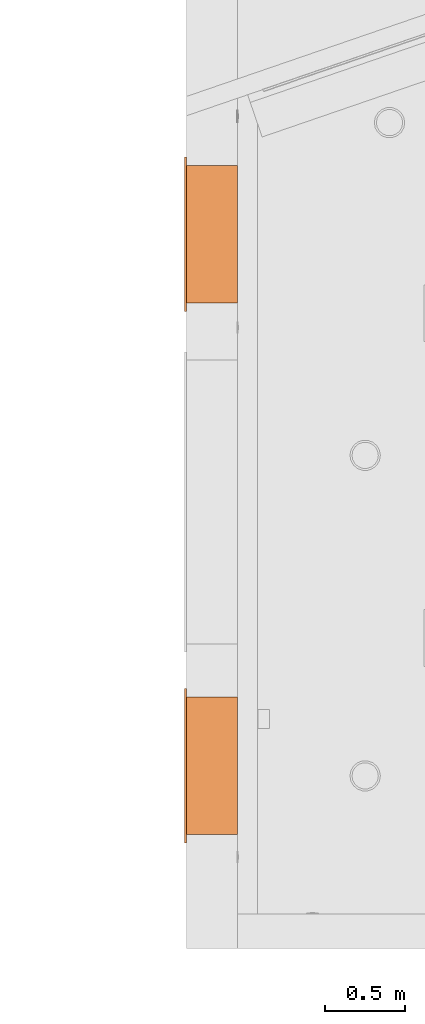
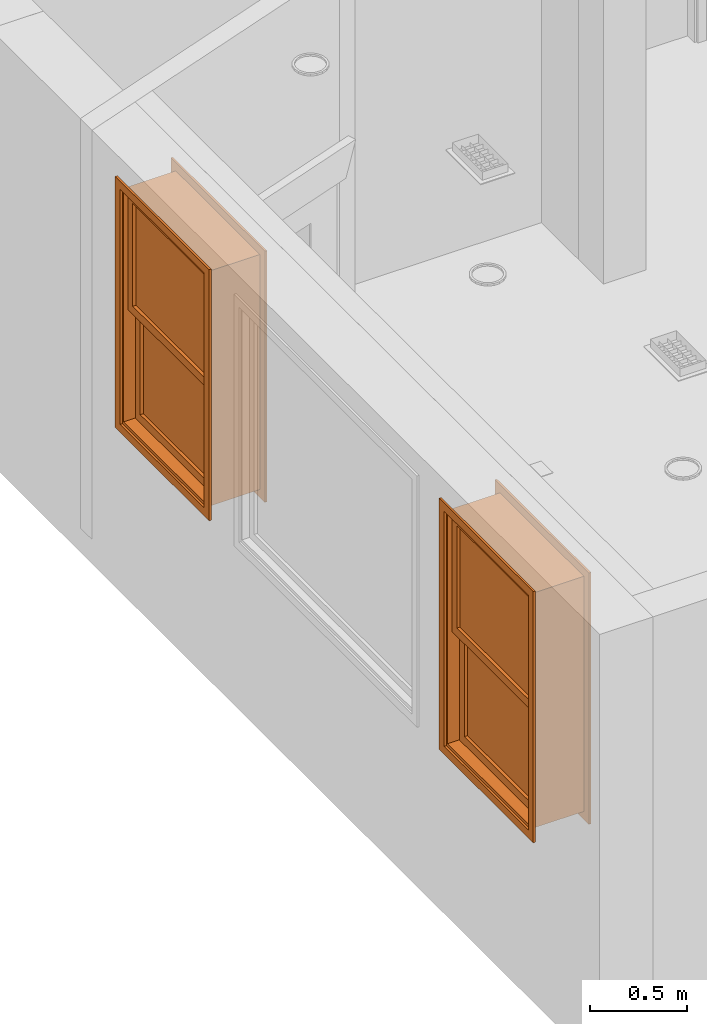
# One storey, part 20 of 48: 2 proxies.
"""IFC2X3 building model written with IfcOpenShell, lengths in inches."""

from ifc_helpers import new_model, entity, si_unit, converted_unit, derived_unit, money_unit, direction, frame, origin_with_axes, place, context, subcontext, project, spatial, faceted_brep, source, transform, mapped, type_object, element, save


model = new_model("IFC2X3")

# Units and contexts
model_context = context("Model", 3, precision=0.00039370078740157, world=origin_with_axes(), true_north=direction((0.0, 1.0)))
plan_context = context("Plan", 3, precision=0.00039370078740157, world=origin_with_axes(), true_north=direction((0.0, 1.0)))
body_context = subcontext(model_context, "Body", "Model", "MODEL_VIEW")
ifc_project = project(units=[converted_unit("LENGTHUNIT", "INCH", entity("IfcPositiveLengthMeasure", 0.0254), si_unit("LENGTHUNIT", "METRE"), dimensions=[1, 0, 0, 0, 0, 0, 0]), converted_unit("AREAUNIT", "SQUARE_FOOT", entity("IfcPositiveLengthMeasure", 0.09290304), si_unit("AREAUNIT", "SQUARE_METRE"), dimensions=[2, 0, 0, 0, 0, 0, 0]), si_unit("PLANEANGLEUNIT", "RADIAN"), si_unit("SOLIDANGLEUNIT", "STERADIAN"), money_unit("USD"), converted_unit("TIMEUNIT", "Year", entity("IfcTimeMeasure", 31557600.0), si_unit("TIMEUNIT", "SECOND"), dimensions=[0, 0, 1, 0, 0, 0, 0]), si_unit("MASSUNIT", "GRAM", prefix="KILO"), si_unit("THERMODYNAMICTEMPERATUREUNIT", "DEGREE_CELSIUS"), si_unit("LUMINOUSINTENSITYUNIT", "LUMEN"), si_unit("ENERGYUNIT", "JOULE", prefix="MEGA"), derived_unit("SPECIFICHEATCAPACITYUNIT", [(si_unit("ENERGYUNIT", "JOULE"), 1), (si_unit("MASSUNIT", "GRAM", prefix="KILO"), -1), (si_unit("THERMODYNAMICTEMPERATUREUNIT", "KELVIN"), -1)])], contexts=[model_context, plan_context])

# Site, building, storey
site_placement = place(None, origin_with_axes())
site = spatial("IfcSite", under=ifc_project, at=site_placement, Name="Site", CompositionType="ELEMENT")
building_placement = place(site_placement, origin_with_axes())
building = spatial("IfcBuilding", under=site, at=building_placement, Name="Building", CompositionType="ELEMENT")
storey_placement = place(building_placement, origin_with_axes())
storey = spatial("IfcBuildingStorey", under=building, at=storey_placement, Name="First Floor", CompositionType="ELEMENT", Elevation=0.0)

# Proxies
building_element_proxy_type = type_object("IfcBuildingElementProxyType", Name="W Double Hung", PredefinedType="NOTDEFINED")
shared_shape = source(origin_with_axes(), body_context, "Body", "Brep", [
    faceted_brep([(16.99999999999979, 0.0, 0.0), (-16.99999999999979, 0.0, 0.0), (-16.99999999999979, 7.999999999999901, 0.0), (16.99999999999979, 7.999999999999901, 0.0), (16.99999999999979, 0.0, 57.99999999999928), (-16.99999999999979, 0.0, 57.99999999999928), (16.4999999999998, 0.0, 0.4999999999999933), (-16.4999999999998, 0.0, 0.4999999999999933), (-16.4999999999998, 0.0, 57.49999999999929), (16.4999999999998, 0.0, 57.49999999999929), (-16.99999999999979, 7.999999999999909, 57.99999999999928), (16.99999999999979, 7.999999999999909, 57.99999999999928), (16.4999999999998, 7.999999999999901, 0.4999999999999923), (16.4999999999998, 7.999999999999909, 57.49999999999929), (-16.4999999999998, 7.999999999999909, 57.49999999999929), (-16.4999999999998, 7.999999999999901, 0.4999999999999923)], [[[0, 1, 2, 3]], [[0, 4, 5, 1], [6, 7, 8, 9]], [[1, 5, 10, 2]], [[3, 2, 10, 11], [12, 13, 14, 15]], [[4, 0, 3, 11]], [[5, 4, 11, 10]], [[7, 6, 12, 15]], [[8, 7, 15, 14]], [[9, 8, 14, 13]], [[6, 9, 13, 12]]]),
    faceted_brep([(18.99999999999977, 8.499999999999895, -1.999999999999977), (18.99999999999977, 7.999999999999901, -1.999999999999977), (16.99999999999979, 7.999999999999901, 0.0), (16.99999999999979, 8.499999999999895, 0.0), (18.99999999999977, 8.499999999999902, 59.99999999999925), (18.99999999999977, 7.999999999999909, 59.99999999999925), (16.99999999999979, 7.999999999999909, 57.99999999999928), (16.99999999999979, 8.499999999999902, 57.99999999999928)], [[[0, 1, 2, 3]], [[4, 5, 1, 0]], [[1, 5, 6, 2]], [[3, 2, 6, 7]], [[0, 3, 7, 4]], [[7, 6, 5, 4]]]),
    faceted_brep([(-18.99999999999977, 8.499999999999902, 59.99999999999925), (-18.99999999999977, 7.999999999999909, 59.99999999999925), (-16.99999999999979, 7.999999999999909, 57.99999999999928), (-16.99999999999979, 8.499999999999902, 57.99999999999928), (-18.99999999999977, 8.499999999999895, -1.999999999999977), (-18.99999999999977, 7.999999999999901, -1.999999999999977), (-16.99999999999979, 7.999999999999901, 0.0), (-16.99999999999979, 8.499999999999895, 0.0)], [[[0, 1, 2, 3]], [[4, 5, 1, 0]], [[1, 5, 6, 2]], [[3, 2, 6, 7]], [[0, 3, 7, 4]], [[7, 6, 5, 4]]]),
    faceted_brep([(-18.99999999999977, 8.499999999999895, -1.999999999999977), (-18.99999999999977, 7.999999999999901, -1.999999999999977), (-16.99999999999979, 7.999999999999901, 0.0), (-16.99999999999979, 8.499999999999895, 0.0), (18.99999999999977, 8.499999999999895, -1.999999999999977), (18.99999999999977, 7.999999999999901, -1.999999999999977), (16.99999999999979, 7.999999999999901, 0.0), (16.99999999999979, 8.499999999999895, 0.0)], [[[0, 1, 2, 3]], [[4, 5, 1, 0]], [[1, 5, 6, 2]], [[3, 2, 6, 7]], [[0, 3, 7, 4]], [[7, 6, 5, 4]]]),
    faceted_brep([(18.99999999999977, 8.499999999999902, 59.99999999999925), (18.99999999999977, 7.999999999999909, 59.99999999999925), (16.99999999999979, 7.999999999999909, 57.99999999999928), (16.99999999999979, 8.499999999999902, 57.99999999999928), (-18.99999999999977, 8.499999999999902, 59.99999999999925), (-18.99999999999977, 7.999999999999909, 59.99999999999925), (-16.99999999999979, 7.999999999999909, 57.99999999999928), (-16.99999999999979, 8.499999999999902, 57.99999999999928)], [[[0, 1, 2, 3]], [[4, 5, 1, 0]], [[1, 5, 6, 2]], [[3, 2, 6, 7]], [[0, 3, 7, 4]], [[7, 6, 5, 4]]]),
    faceted_brep([(18.99999999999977, -4.999999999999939, -1.999999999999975), (16.99999999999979, -4.999999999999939, 0.0), (16.99999999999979, -4.499999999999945, 0.0), (18.99999999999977, -4.499999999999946, -1.999999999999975), (18.99999999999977, -4.999999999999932, 59.99999999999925), (16.99999999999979, -4.999999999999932, 57.99999999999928), (16.99999999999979, -4.499999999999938, 57.99999999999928), (18.99999999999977, -4.499999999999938, 59.99999999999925)], [[[0, 1, 2, 3]], [[0, 4, 5, 1]], [[1, 5, 6, 2]], [[3, 2, 6, 7]], [[4, 0, 3, 7]], [[5, 4, 7, 6]]]),
    faceted_brep([(-18.99999999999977, -4.999999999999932, 59.99999999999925), (-16.99999999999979, -4.999999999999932, 57.99999999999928), (-16.99999999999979, -4.499999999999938, 57.99999999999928), (-18.99999999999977, -4.499999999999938, 59.99999999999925), (-18.99999999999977, -4.999999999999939, -1.999999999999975), (-16.99999999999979, -4.999999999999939, 0.0), (-16.99999999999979, -4.499999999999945, 0.0), (-18.99999999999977, -4.499999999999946, -1.999999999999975)], [[[0, 1, 2, 3]], [[0, 4, 5, 1]], [[1, 5, 6, 2]], [[3, 2, 6, 7]], [[4, 0, 3, 7]], [[5, 4, 7, 6]]]),
    faceted_brep([(-18.99999999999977, -4.999999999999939, -1.999999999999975), (-16.99999999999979, -4.999999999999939, 0.0), (-16.99999999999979, -4.499999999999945, 0.0), (-18.99999999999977, -4.499999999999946, -1.999999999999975), (18.99999999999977, -4.999999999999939, -1.999999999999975), (16.99999999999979, -4.999999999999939, 0.0), (16.99999999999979, -4.499999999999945, 0.0), (18.99999999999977, -4.499999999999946, -1.999999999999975)], [[[0, 1, 2, 3]], [[0, 4, 5, 1]], [[1, 5, 6, 2]], [[3, 2, 6, 7]], [[4, 0, 3, 7]], [[5, 4, 7, 6]]]),
    faceted_brep([(18.99999999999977, -4.999999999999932, 59.99999999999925), (16.99999999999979, -4.999999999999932, 57.99999999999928), (16.99999999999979, -4.499999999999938, 57.99999999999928), (18.99999999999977, -4.499999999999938, 59.99999999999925), (-18.99999999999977, -4.999999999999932, 59.99999999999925), (-16.99999999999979, -4.999999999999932, 57.99999999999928), (-16.99999999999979, -4.499999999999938, 57.99999999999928), (-18.99999999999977, -4.499999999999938, 59.99999999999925)], [[[0, 1, 2, 3]], [[0, 4, 5, 1]], [[1, 5, 6, 2]], [[3, 2, 6, 7]], [[4, 0, 3, 7]], [[5, 4, 7, 6]]]),
    faceted_brep([(16.5003937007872, -4.499999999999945, 0.7539370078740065), (16.99999999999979, -4.499999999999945, 0.7539370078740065), (16.99999999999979, -4.499999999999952, 57.49606299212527), (16.5003937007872, -4.499999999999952, 57.49606299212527), (16.5003937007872, 0.0, 0.7539370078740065), (16.99999999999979, 0.0, 0.7539370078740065), (16.99999999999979, 0.0, 57.49606299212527), (16.5003937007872, 0.0, 57.49606299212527)], [[[0, 1, 2, 3]], [[4, 5, 1, 0]], [[6, 2, 1, 5]], [[3, 2, 6, 7]], [[7, 4, 0, 3]], [[7, 6, 5, 4]]]),
    faceted_brep([(-16.5003937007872, 0.0, 57.49606299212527), (-16.99999999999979, 0.0, 57.49606299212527), (-16.99999999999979, -4.499999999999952, 57.49606299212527), (-16.5003937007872, -4.499999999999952, 57.49606299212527), (-16.5003937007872, 0.0, 0.7539370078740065), (-16.99999999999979, 0.0, 0.7539370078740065), (-16.99999999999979, -4.499999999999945, 0.7539370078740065), (-16.5003937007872, -4.499999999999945, 0.7539370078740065)], [[[0, 1, 2, 3]], [[4, 5, 1, 0]], [[5, 6, 2, 1]], [[3, 2, 6, 7]], [[7, 4, 0, 3]], [[7, 6, 5, 4]]]),
    faceted_brep([(-16.5003937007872, 0.0, 0.7539370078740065), (-16.99999999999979, 0.0, 0.7539370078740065), (-16.99999999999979, -4.499999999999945, 0.7539370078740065), (-16.5003937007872, -4.499999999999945, 0.7539370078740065), (-16.5003937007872, 0.0, 0.7496062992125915), (16.5003937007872, 0.0, 0.7496062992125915), (16.5003937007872, 0.0, 0.7539370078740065), (16.99999999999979, 0.0, 0.7539370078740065), (16.99999999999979, 0.0, 0.0), (-16.99999999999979, 0.0, 0.0), (-16.99999999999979, -4.499999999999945, 0.0), (16.5003937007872, -4.499999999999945, 0.7496062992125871), (-16.5003937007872, -4.499999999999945, 0.7496062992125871), (16.99999999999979, -4.499999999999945, 0.0), (16.99999999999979, -4.499999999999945, 0.7539370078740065), (16.5003937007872, -4.499999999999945, 0.7539370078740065)], [[[0, 1, 2, 3]], [[4, 5, 6, 7, 8, 9, 1, 0]], [[9, 10, 2, 1]], [[11, 12, 3, 2, 10, 13, 14, 15]], [[12, 4, 0, 3]], [[11, 5, 4, 12]], [[6, 5, 11, 15]], [[15, 14, 7, 6]], [[7, 14, 13, 8]], [[8, 13, 10, 9]]]),
    faceted_brep([(16.5003937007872, -4.499999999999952, 57.49606299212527), (16.99999999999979, -4.499999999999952, 57.49606299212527), (16.99999999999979, -4.499999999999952, 57.99999999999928), (-16.99999999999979, -4.499999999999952, 57.99999999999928), (-16.99999999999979, -4.499999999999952, 57.49606299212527), (-16.5003937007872, -4.499999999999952, 57.49606299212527), (-16.5003937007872, -4.499999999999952, 57.5003937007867), (16.5003937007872, -4.499999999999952, 57.5003937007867), (16.5003937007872, 0.0, 57.49606299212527), (16.99999999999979, 0.0, 57.49606299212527), (16.99999999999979, 0.0, 57.99999999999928), (-16.99999999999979, 0.0, 57.99999999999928), (-16.99999999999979, 0.0, 57.49606299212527), (-16.5003937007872, 0.0, 57.49606299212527), (-16.5003937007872, 0.0, 57.5003937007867), (16.5003937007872, 0.0, 57.5003937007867)], [[[0, 1, 2, 3, 4, 5, 6, 7]], [[8, 9, 1, 0]], [[10, 2, 1, 9]], [[11, 3, 2, 10]], [[12, 4, 3, 11]], [[5, 4, 12, 13]], [[5, 13, 14, 6]], [[6, 14, 15, 7]], [[7, 15, 8, 0]], [[15, 14, 13, 12, 11, 10, 9, 8]]]),
    faceted_brep([(14.49999999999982, 0.0, 2.749999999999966), (14.49999999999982, -0.8749999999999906, 2.749999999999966), (14.49999999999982, -0.8749999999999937, 28.12499999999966), (14.49999999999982, 0.0, 28.12499999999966), (16.4999999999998, 0.0, 2.749999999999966), (16.4999999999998, -0.8749999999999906, 2.749999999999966), (16.4999999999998, -0.8749999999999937, 28.12499999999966), (16.4999999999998, 0.0, 28.12499999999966)], [[[0, 1, 2, 3]], [[4, 5, 1, 0]], [[1, 5, 6, 2]], [[3, 2, 6, 7]], [[0, 3, 7, 4]], [[7, 6, 5, 4]]]),
    faceted_brep([(-16.4999999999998, 0.0, 2.749999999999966), (-16.4999999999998, -0.8749999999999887, 2.749999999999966), (-16.4999999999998, -0.8749999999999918, 28.12499999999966), (-16.4999999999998, 0.0, 28.12499999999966), (-14.49999999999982, 0.0, 2.749999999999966), (-14.49999999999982, -0.8749999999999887, 2.749999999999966), (-14.49999999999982, -0.8749999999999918, 28.12499999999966), (-14.49999999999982, 0.0, 28.12499999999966)], [[[0, 1, 2, 3]], [[4, 5, 1, 0]], [[1, 5, 6, 2]], [[3, 2, 6, 7]], [[0, 3, 7, 4]], [[7, 6, 5, 4]]]),
    faceted_brep([(-16.4999999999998, 0.0, 0.749999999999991), (-16.4999999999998, -0.8749999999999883, 0.7499999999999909), (-16.4999999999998, -0.8749999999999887, 2.749999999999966), (-16.4999999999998, 0.0, 2.749999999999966), (16.4999999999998, 0.0, 0.749999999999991), (16.4999999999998, -0.8749999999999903, 0.7499999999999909), (16.4999999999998, -0.8749999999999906, 2.749999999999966), (14.49999999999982, -0.8749999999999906, 2.749999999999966), (0.9999999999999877, -0.8749999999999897, 2.749999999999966), (-0.9999999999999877, -0.8749999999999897, 2.749999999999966), (-14.49999999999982, -0.8749999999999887, 2.749999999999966), (-14.49999999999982, 0.0, 2.749999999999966), (-0.9999999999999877, 0.0, 2.749999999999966), (0.9999999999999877, 0.0, 2.749999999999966), (14.49999999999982, 0.0, 2.749999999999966), (16.4999999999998, 0.0, 2.749999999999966)], [[[0, 1, 2, 3]], [[4, 5, 1, 0]], [[1, 5, 6, 7, 8, 9, 10, 2]], [[3, 2, 10, 11]], [[0, 3, 11, 12, 13, 14, 15, 4]], [[15, 6, 5, 4]], [[14, 7, 6, 15]], [[13, 8, 7, 14]], [[12, 9, 8, 13]], [[11, 10, 9, 12]]]),
    faceted_brep([(16.4999999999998, 0.0, 30.12499999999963), (16.4999999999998, -0.8749999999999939, 30.12499999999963), (16.4999999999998, -0.8749999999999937, 28.12499999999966), (16.4999999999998, 0.0, 28.12499999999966), (-16.4999999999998, 0.0, 30.12499999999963), (-16.4999999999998, -0.8749999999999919, 30.12499999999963), (-16.4999999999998, -0.8749999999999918, 28.12499999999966), (-14.49999999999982, -0.8749999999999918, 28.12499999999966), (-0.9999999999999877, -0.8749999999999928, 28.12499999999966), (0.9999999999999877, -0.8749999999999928, 28.12499999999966), (14.49999999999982, -0.8749999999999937, 28.12499999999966), (14.49999999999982, 0.0, 28.12499999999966), (0.9999999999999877, 0.0, 28.12499999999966), (-0.9999999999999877, 0.0, 28.12499999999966), (-14.49999999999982, 0.0, 28.12499999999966), (-16.4999999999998, 0.0, 28.12499999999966)], [[[0, 1, 2, 3]], [[4, 5, 1, 0]], [[1, 5, 6, 7, 8, 9, 10, 2]], [[3, 2, 10, 11]], [[0, 3, 11, 12, 13, 14, 15, 4]], [[15, 6, 5, 4]], [[14, 7, 6, 15]], [[13, 8, 7, 14]], [[12, 9, 8, 13]], [[11, 10, 9, 12]]]),
    faceted_brep([(14.49999999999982, -0.8749999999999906, 2.749999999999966), (14.49999999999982, -1.74999999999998, 2.749999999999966), (14.49999999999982, -1.749999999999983, 28.12499999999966), (14.49999999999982, -0.8749999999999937, 28.12499999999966), (16.4999999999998, -0.8749999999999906, 2.749999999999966), (16.4999999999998, -1.74999999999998, 2.749999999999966), (16.4999999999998, -1.749999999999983, 28.12499999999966), (16.4999999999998, -0.8749999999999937, 28.12499999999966)], [[[0, 1, 2, 3]], [[4, 5, 1, 0]], [[1, 5, 6, 2]], [[3, 2, 6, 7]], [[0, 3, 7, 4]], [[7, 6, 5, 4]]]),
    faceted_brep([(-16.4999999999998, -0.8749999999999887, 2.749999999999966), (-16.4999999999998, -1.749999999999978, 2.749999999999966), (-16.4999999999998, -1.749999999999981, 28.12499999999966), (-16.4999999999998, -0.8749999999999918, 28.12499999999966), (-14.49999999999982, -0.8749999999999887, 2.749999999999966), (-14.49999999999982, -1.749999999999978, 2.749999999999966), (-14.49999999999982, -1.749999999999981, 28.12499999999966), (-14.49999999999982, -0.8749999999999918, 28.12499999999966)], [[[0, 1, 2, 3]], [[4, 5, 1, 0]], [[1, 5, 6, 2]], [[3, 2, 6, 7]], [[0, 3, 7, 4]], [[7, 6, 5, 4]]]),
    faceted_brep([(-16.4999999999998, -0.8749999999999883, 0.7499999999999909), (-16.4999999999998, -1.749999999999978, 0.7499999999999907), (-16.4999999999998, -1.749999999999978, 2.749999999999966), (-16.4999999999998, -0.8749999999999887, 2.749999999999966), (16.4999999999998, -0.8749999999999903, 0.7499999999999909), (16.4999999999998, -1.74999999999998, 0.7499999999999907), (16.4999999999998, -1.74999999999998, 2.749999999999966), (14.49999999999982, -1.74999999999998, 2.749999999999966), (0.9999999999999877, -1.749999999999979, 2.749999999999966), (-0.9999999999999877, -1.749999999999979, 2.749999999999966), (-14.49999999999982, -1.749999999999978, 2.749999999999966), (-14.49999999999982, -0.8749999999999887, 2.749999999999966), (-0.9999999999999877, -0.8749999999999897, 2.749999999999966), (0.9999999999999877, -0.8749999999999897, 2.749999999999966), (14.49999999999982, -0.8749999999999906, 2.749999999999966), (16.4999999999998, -0.8749999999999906, 2.749999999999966)], [[[0, 1, 2, 3]], [[4, 5, 1, 0]], [[1, 5, 6, 7, 8, 9, 10, 2]], [[3, 2, 10, 11]], [[0, 3, 11, 12, 13, 14, 15, 4]], [[15, 6, 5, 4]], [[14, 7, 6, 15]], [[13, 8, 7, 14]], [[12, 9, 8, 13]], [[11, 10, 9, 12]]]),
    faceted_brep([(16.4999999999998, -0.8749999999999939, 30.12499999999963), (16.4999999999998, -1.749999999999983, 30.12499999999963), (16.4999999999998, -1.749999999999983, 28.12499999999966), (16.4999999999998, -0.8749999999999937, 28.12499999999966), (-16.4999999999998, -0.8749999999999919, 30.12499999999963), (-16.4999999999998, -1.749999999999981, 30.12499999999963), (-16.4999999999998, -1.749999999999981, 28.12499999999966), (-14.49999999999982, -1.749999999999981, 28.12499999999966), (-0.9999999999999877, -1.749999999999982, 28.12499999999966), (0.9999999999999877, -1.749999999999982, 28.12499999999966), (14.49999999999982, -1.749999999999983, 28.12499999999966), (14.49999999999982, -0.8749999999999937, 28.12499999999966), (0.9999999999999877, -0.8749999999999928, 28.12499999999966), (-0.9999999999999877, -0.8749999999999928, 28.12499999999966), (-14.49999999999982, -0.8749999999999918, 28.12499999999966), (-16.4999999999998, -0.8749999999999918, 28.12499999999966)], [[[0, 1, 2, 3]], [[4, 5, 1, 0]], [[1, 5, 6, 7, 8, 9, 10, 2]], [[3, 2, 10, 11]], [[0, 3, 11, 12, 13, 14, 15, 4]], [[15, 6, 5, 4]], [[14, 7, 6, 15]], [[13, 8, 7, 14]], [[12, 9, 8, 13]], [[11, 10, 9, 12]]]),
    faceted_brep([(14.49999999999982, -0.7499999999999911, 2.749999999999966), (14.49999999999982, -0.999999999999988, 2.749999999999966), (-14.49999999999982, -0.999999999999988, 2.749999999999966), (-14.49999999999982, -0.7499999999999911, 2.749999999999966), (14.49999999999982, -0.7499999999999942, 28.12499999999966), (14.49999999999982, -0.9999999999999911, 28.12499999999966), (-14.49999999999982, -0.9999999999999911, 28.12499999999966), (-14.49999999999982, -0.7499999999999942, 28.12499999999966)], [[[0, 1, 2, 3]], [[4, 5, 1, 0]], [[1, 5, 6, 2]], [[3, 2, 6, 7]], [[0, 3, 7, 4]], [[7, 6, 5, 4]]]),
    faceted_brep([(14.49999999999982, -1.749999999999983, 30.12499999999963), (14.49999999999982, -2.624999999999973, 30.12499999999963), (14.49999999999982, -2.624999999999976, 55.49999999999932), (14.49999999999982, -1.749999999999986, 55.49999999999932), (16.4999999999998, -1.749999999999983, 30.12499999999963), (16.4999999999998, -2.624999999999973, 30.12499999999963), (16.4999999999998, -2.624999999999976, 55.49999999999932), (16.4999999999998, -1.749999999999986, 55.49999999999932)], [[[0, 1, 2, 3]], [[4, 5, 1, 0]], [[1, 5, 6, 2]], [[3, 2, 6, 7]], [[0, 3, 7, 4]], [[7, 6, 5, 4]]]),
    faceted_brep([(-16.4999999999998, -1.749999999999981, 30.12499999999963), (-16.4999999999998, -2.624999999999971, 30.12499999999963), (-16.4999999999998, -2.624999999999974, 55.49999999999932), (-16.4999999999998, -1.749999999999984, 55.49999999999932), (-14.49999999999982, -1.749999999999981, 30.12499999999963), (-14.49999999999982, -2.624999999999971, 30.12499999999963), (-14.49999999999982, -2.624999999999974, 55.49999999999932), (-14.49999999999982, -1.749999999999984, 55.49999999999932)], [[[0, 1, 2, 3]], [[4, 5, 1, 0]], [[1, 5, 6, 2]], [[3, 2, 6, 7]], [[0, 3, 7, 4]], [[7, 6, 5, 4]]]),
    faceted_brep([(-16.4999999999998, -1.749999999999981, 28.12499999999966), (-16.4999999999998, -2.624999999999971, 28.12499999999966), (-16.4999999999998, -2.624999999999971, 30.12499999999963), (-16.4999999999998, -1.749999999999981, 30.12499999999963), (16.4999999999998, -1.749999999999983, 28.12499999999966), (16.4999999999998, -2.624999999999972, 28.12499999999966), (16.4999999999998, -2.624999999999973, 30.12499999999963), (14.49999999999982, -2.624999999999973, 30.12499999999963), (0.9999999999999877, -2.624999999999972, 30.12499999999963), (-0.9999999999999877, -2.624999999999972, 30.12499999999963), (-14.49999999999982, -2.624999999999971, 30.12499999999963), (-14.49999999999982, -1.749999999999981, 30.12499999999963), (-0.9999999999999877, -1.749999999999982, 30.12499999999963), (0.9999999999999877, -1.749999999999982, 30.12499999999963), (14.49999999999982, -1.749999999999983, 30.12499999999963), (16.4999999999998, -1.749999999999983, 30.12499999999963)], [[[0, 1, 2, 3]], [[4, 5, 1, 0]], [[1, 5, 6, 7, 8, 9, 10, 2]], [[3, 2, 10, 11]], [[0, 3, 11, 12, 13, 14, 15, 4]], [[15, 6, 5, 4]], [[14, 7, 6, 15]], [[13, 8, 7, 14]], [[12, 9, 8, 13]], [[11, 10, 9, 12]]]),
    faceted_brep([(16.4999999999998, -1.749999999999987, 57.49999999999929), (16.4999999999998, -2.624999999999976, 57.49999999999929), (16.4999999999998, -2.624999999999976, 55.49999999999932), (16.4999999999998, -1.749999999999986, 55.49999999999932), (-16.4999999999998, -1.749999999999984, 57.49999999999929), (-16.4999999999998, -2.624999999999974, 57.49999999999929), (-16.4999999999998, -2.624999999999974, 55.49999999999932), (-14.49999999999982, -2.624999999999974, 55.49999999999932), (-0.9999999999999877, -2.624999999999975, 55.49999999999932), (0.9999999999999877, -2.624999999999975, 55.49999999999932), (14.49999999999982, -2.624999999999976, 55.49999999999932), (14.49999999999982, -1.749999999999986, 55.49999999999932), (0.9999999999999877, -1.749999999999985, 55.49999999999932), (-0.9999999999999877, -1.749999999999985, 55.49999999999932), (-14.49999999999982, -1.749999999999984, 55.49999999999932), (-16.4999999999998, -1.749999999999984, 55.49999999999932)], [[[0, 1, 2, 3]], [[4, 5, 1, 0]], [[1, 5, 6, 7, 8, 9, 10, 2]], [[3, 2, 10, 11]], [[0, 3, 11, 12, 13, 14, 15, 4]], [[15, 6, 5, 4]], [[14, 7, 6, 15]], [[13, 8, 7, 14]], [[12, 9, 8, 13]], [[11, 10, 9, 12]]]),
    faceted_brep([(14.49999999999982, -2.624999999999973, 30.12499999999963), (14.49999999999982, -3.499999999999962, 30.12499999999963), (14.49999999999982, -3.499999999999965, 55.49999999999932), (14.49999999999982, -2.624999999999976, 55.49999999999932), (16.4999999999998, -2.624999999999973, 30.12499999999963), (16.4999999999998, -3.499999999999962, 30.12499999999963), (16.4999999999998, -3.499999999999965, 55.49999999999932), (16.4999999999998, -2.624999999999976, 55.49999999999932)], [[[0, 1, 2, 3]], [[4, 5, 1, 0]], [[1, 5, 6, 2]], [[3, 2, 6, 7]], [[0, 3, 7, 4]], [[7, 6, 5, 4]]]),
    faceted_brep([(-16.4999999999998, -2.624999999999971, 30.12499999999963), (-16.4999999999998, -3.49999999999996, 30.12499999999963), (-16.4999999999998, -3.499999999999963, 55.49999999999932), (-16.4999999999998, -2.624999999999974, 55.49999999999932), (-14.49999999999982, -2.624999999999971, 30.12499999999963), (-14.49999999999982, -3.49999999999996, 30.12499999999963), (-14.49999999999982, -3.499999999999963, 55.49999999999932), (-14.49999999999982, -2.624999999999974, 55.49999999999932)], [[[0, 1, 2, 3]], [[4, 5, 1, 0]], [[1, 5, 6, 2]], [[3, 2, 6, 7]], [[0, 3, 7, 4]], [[7, 6, 5, 4]]]),
    faceted_brep([(-16.4999999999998, -2.624999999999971, 28.12499999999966), (-16.4999999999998, -3.49999999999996, 28.12499999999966), (-16.4999999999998, -3.49999999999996, 30.12499999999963), (-16.4999999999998, -2.624999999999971, 30.12499999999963), (16.4999999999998, -2.624999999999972, 28.12499999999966), (16.4999999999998, -3.499999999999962, 28.12499999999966), (16.4999999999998, -3.499999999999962, 30.12499999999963), (14.49999999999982, -3.499999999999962, 30.12499999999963), (0.9999999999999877, -3.49999999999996, 30.12499999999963), (-0.9999999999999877, -3.49999999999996, 30.12499999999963), (-14.49999999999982, -3.49999999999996, 30.12499999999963), (-14.49999999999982, -2.624999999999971, 30.12499999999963), (-0.9999999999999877, -2.624999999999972, 30.12499999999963), (0.9999999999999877, -2.624999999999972, 30.12499999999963), (14.49999999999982, -2.624999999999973, 30.12499999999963), (16.4999999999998, -2.624999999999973, 30.12499999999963)], [[[0, 1, 2, 3]], [[4, 5, 1, 0]], [[1, 5, 6, 7, 8, 9, 10, 2]], [[3, 2, 10, 11]], [[0, 3, 11, 12, 13, 14, 15, 4]], [[15, 6, 5, 4]], [[14, 7, 6, 15]], [[13, 8, 7, 14]], [[12, 9, 8, 13]], [[11, 10, 9, 12]]]),
    faceted_brep([(16.4999999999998, -2.624999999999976, 57.49999999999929), (16.4999999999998, -3.499999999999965, 57.49999999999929), (16.4999999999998, -3.499999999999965, 55.49999999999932), (16.4999999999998, -2.624999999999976, 55.49999999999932), (-16.4999999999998, -2.624999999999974, 57.49999999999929), (-16.4999999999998, -3.499999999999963, 57.49999999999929), (-16.4999999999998, -3.499999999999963, 55.49999999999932), (-14.49999999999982, -3.499999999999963, 55.49999999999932), (-0.9999999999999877, -3.499999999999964, 55.49999999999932), (0.9999999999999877, -3.499999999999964, 55.49999999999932), (14.49999999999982, -3.499999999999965, 55.49999999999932), (14.49999999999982, -2.624999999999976, 55.49999999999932), (0.9999999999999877, -2.624999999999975, 55.49999999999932), (-0.9999999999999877, -2.624999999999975, 55.49999999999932), (-14.49999999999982, -2.624999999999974, 55.49999999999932), (-16.4999999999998, -2.624999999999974, 55.49999999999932)], [[[0, 1, 2, 3]], [[4, 5, 1, 0]], [[1, 5, 6, 7, 8, 9, 10, 2]], [[3, 2, 10, 11]], [[0, 3, 11, 12, 13, 14, 15, 4]], [[15, 6, 5, 4]], [[14, 7, 6, 15]], [[13, 8, 7, 14]], [[12, 9, 8, 13]], [[11, 10, 9, 12]]]),
    faceted_brep([(14.49999999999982, -2.499999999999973, 30.12499999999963), (14.49999999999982, -2.74999999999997, 30.12499999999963), (-14.49999999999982, -2.74999999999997, 30.12499999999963), (-14.49999999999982, -2.499999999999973, 30.12499999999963), (14.49999999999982, -2.499999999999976, 55.49999999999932), (14.49999999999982, -2.749999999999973, 55.49999999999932), (-14.49999999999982, -2.749999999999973, 55.49999999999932), (-14.49999999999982, -2.499999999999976, 55.49999999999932)], [[[0, 1, 2, 3]], [[4, 5, 1, 0]], [[1, 5, 6, 2]], [[3, 2, 6, 7]], [[0, 3, 7, 4]], [[7, 6, 5, 4]]]),
])
proxy_1_placement = place(storey_placement, frame((-192.0000016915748, 318.9972589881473, 35.99999999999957), z_axis=(0.0, 0.0, 1.0), x_axis=(0.0, -1.0, 0.0)))
element("IfcBuildingElementProxy", 1, at=proxy_1_placement, inside=storey, type_object=building_element_proxy_type, Name="WD - 001", context=body_context, shape_type="MappedRepresentation", body=[
    mapped(shared_shape, transform((16.99999999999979, -7.999999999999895, 0.0))),
])
proxy_2_placement = place(storey_placement, frame((-192.0000016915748, 188.0000000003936, 35.99999999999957), z_axis=(0.0, 0.0, 1.0), x_axis=(0.0, -1.0, 0.0)))
element("IfcBuildingElementProxy", 2, at=proxy_2_placement, inside=storey, type_object=building_element_proxy_type, Name="WD - 001", context=body_context, shape_type="MappedRepresentation", body=[
    mapped(shared_shape, transform((16.99999999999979, -7.99999999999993, 0.0))),
])

save(model, "model.ifc")
